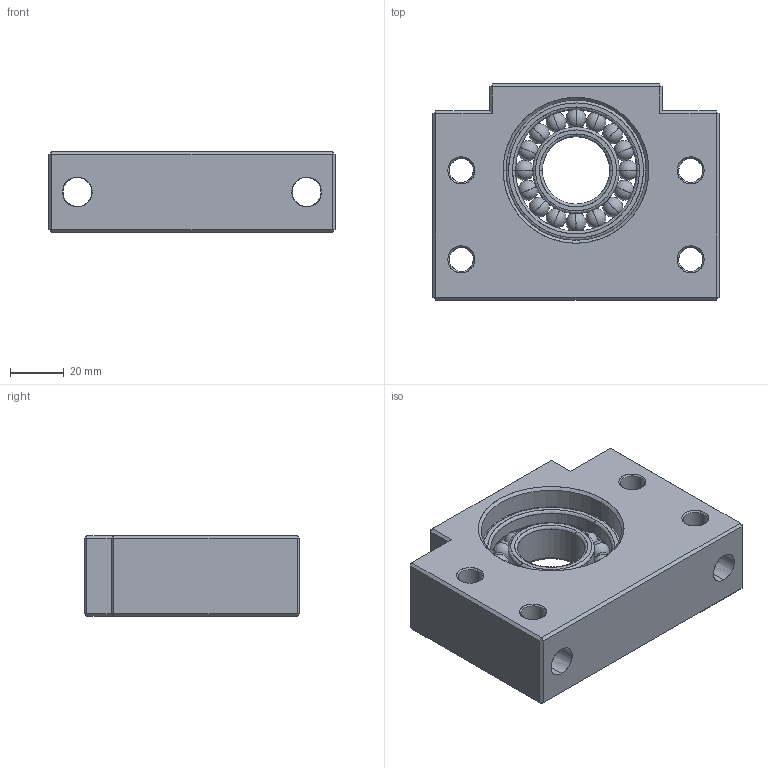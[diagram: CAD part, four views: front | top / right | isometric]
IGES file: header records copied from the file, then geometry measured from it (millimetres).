
Start section: SolidWorks IGES file using analytic representation for surfaces
Bounding box: 106 x 80 x 30 mm (x, y, z)
Surface area: 42192 mm2 (no closed solid volume)
Topology: 0 solids, 0 shells, 160 faces, 2372 edges, 2308 vertices
Faces by surface type: revolution 92, bspline 68
